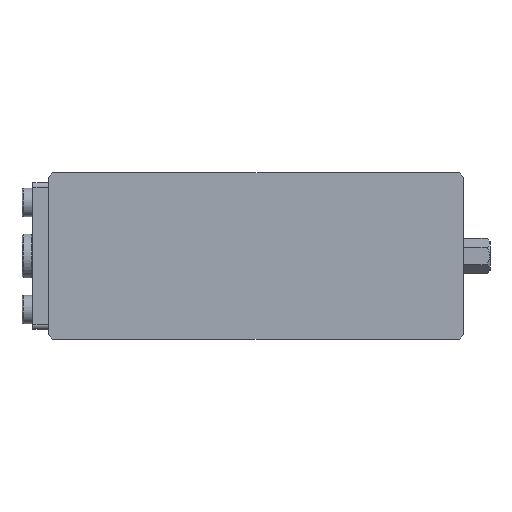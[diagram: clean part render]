
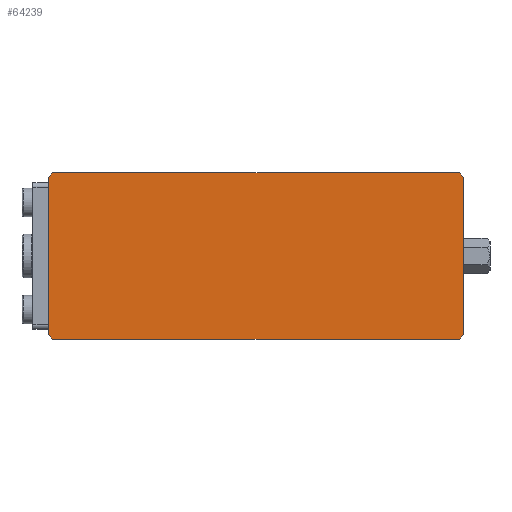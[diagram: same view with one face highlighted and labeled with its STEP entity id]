
A CAD part, front view. The second image highlights one B-rep face of the part: STEP entity #64239.
In plain terms, the highlighted planar face has unit normal (0, -1, 0).
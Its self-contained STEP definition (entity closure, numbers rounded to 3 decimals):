
#2065 = CARTESIAN_POINT ( 'NONE',  ( 93., -56., 38. ) ) ;
#3698 = CARTESIAN_POINT ( 'NONE',  ( 95., -56., -38. ) ) ;
#4888 = CARTESIAN_POINT ( 'NONE',  ( -95., -56., 38. ) ) ;
#6913 = CARTESIAN_POINT ( 'NONE',  ( 95., -56., 36. ) ) ;
#8191 = VECTOR ( 'NONE', #21712, 1000. ) ;
#9177 = EDGE_CURVE ( 'NONE', #20527, #34514, #45389, .T. ) ;
#9987 = ORIENTED_EDGE ( 'NONE', *, *, #65185, .F. ) ;
#10451 = CARTESIAN_POINT ( 'NONE',  ( -95., -56., 36. ) ) ;
#11672 = ORIENTED_EDGE ( 'NONE', *, *, #12166, .T. ) ;
#11843 = ORIENTED_EDGE ( 'NONE', *, *, #60862, .F. ) ;
#12166 = EDGE_CURVE ( 'NONE', #39688, #20527, #46117, .T. ) ;
#12188 = AXIS2_PLACEMENT_3D ( 'NONE', #36457, #63304, #57462 ) ;
#12240 = LINE ( 'NONE', #36947, #47925 ) ;
#13449 = DIRECTION ( 'NONE',  ( 0.707, 0., -0.707 ) ) ;
#15363 = VERTEX_POINT ( 'NONE', #2065 ) ;
#15551 = PLANE ( 'NONE',  #12188 ) ;
#16045 = DIRECTION ( 'NONE',  ( 0., 0., -1. ) ) ;
#17930 = CARTESIAN_POINT ( 'NONE',  ( 95., -56., 36. ) ) ;
#20527 = VERTEX_POINT ( 'NONE', #31088 ) ;
#21564 = ORIENTED_EDGE ( 'NONE', *, *, #28173, .T. ) ;
#21712 = DIRECTION ( 'NONE',  ( 0.707, 0., 0.707 ) ) ;
#24620 = DIRECTION ( 'NONE',  ( -1., 0., 0. ) ) ;
#26995 = VECTOR ( 'NONE', #13449, 1000. ) ;
#28173 = EDGE_CURVE ( 'NONE', #57932, #15363, #43717, .T. ) ;
#28869 = CARTESIAN_POINT ( 'NONE',  ( -93., -56., -38. ) ) ;
#30640 = VECTOR ( 'NONE', #24620, 1000. ) ;
#31088 = CARTESIAN_POINT ( 'NONE',  ( -95., -56., -36. ) ) ;
#31125 = LINE ( 'NONE', #67297, #44070 ) ;
#32110 = EDGE_CURVE ( 'NONE', #40918, #39688, #12240, .T. ) ;
#32645 = CARTESIAN_POINT ( 'NONE',  ( 95., -56., -36. ) ) ;
#34514 = VERTEX_POINT ( 'NONE', #65328 ) ;
#34522 = CARTESIAN_POINT ( 'NONE',  ( 95., -56., 38. ) ) ;
#34945 = ORIENTED_EDGE ( 'NONE', *, *, #9177, .T. ) ;
#35761 = VERTEX_POINT ( 'NONE', #51337 ) ;
#36056 = VERTEX_POINT ( 'NONE', #37442 ) ;
#36276 = ORIENTED_EDGE ( 'NONE', *, *, #53260, .T. ) ;
#36457 = CARTESIAN_POINT ( 'NONE',  ( 95., -56., 38. ) ) ;
#36947 = CARTESIAN_POINT ( 'NONE',  ( -93., -56., 38. ) ) ;
#37442 = CARTESIAN_POINT ( 'NONE',  ( 95., -56., -36. ) ) ;
#37632 = DIRECTION ( 'NONE',  ( -0.707, 0., -0.707 ) ) ;
#39688 = VERTEX_POINT ( 'NONE', #10451 ) ;
#40527 = CARTESIAN_POINT ( 'NONE',  ( -93., -56., 38. ) ) ;
#40918 = VERTEX_POINT ( 'NONE', #40527 ) ;
#41646 = FACE_OUTER_BOUND ( 'NONE', #49111, .T. ) ;
#41998 = EDGE_CURVE ( 'NONE', #35761, #36056, #47158, .T. ) ;
#43404 = VECTOR ( 'NONE', #55072, 1000. ) ;
#43717 = LINE ( 'NONE', #17930, #43404 ) ;
#44070 = VECTOR ( 'NONE', #16045, 1000. ) ;
#44545 = DIRECTION ( 'NONE',  ( -1., 0., 0. ) ) ;
#45389 = LINE ( 'NONE', #28869, #26995 ) ;
#45933 = LINE ( 'NONE', #3698, #30640 ) ;
#46117 = LINE ( 'NONE', #4888, #55772 ) ;
#46195 = ORIENTED_EDGE ( 'NONE', *, *, #41998, .T. ) ;
#47158 = LINE ( 'NONE', #32645, #8191 ) ;
#47925 = VECTOR ( 'NONE', #37632, 1000. ) ;
#48088 = VECTOR ( 'NONE', #44545, 1000. ) ;
#49111 = EDGE_LOOP ( 'NONE', ( #9987, #21564, #36276, #66532, #11672, #34945, #11843, #46195 ) ) ;
#51337 = CARTESIAN_POINT ( 'NONE',  ( 93., -56., -38. ) ) ;
#53260 = EDGE_CURVE ( 'NONE', #15363, #40918, #55211, .T. ) ;
#55072 = DIRECTION ( 'NONE',  ( -0.707, 0., 0.707 ) ) ;
#55211 = LINE ( 'NONE', #34522, #48088 ) ;
#55772 = VECTOR ( 'NONE', #56773, 1000. ) ;
#56773 = DIRECTION ( 'NONE',  ( 0., 0., -1. ) ) ;
#57462 = DIRECTION ( 'NONE',  ( 0., 0., 1. ) ) ;
#57932 = VERTEX_POINT ( 'NONE', #6913 ) ;
#60862 = EDGE_CURVE ( 'NONE', #35761, #34514, #45933, .T. ) ;
#63304 = DIRECTION ( 'NONE',  ( 0., 1., 0. ) ) ;
#64239 = ADVANCED_FACE ( 'NONE', ( #41646 ), #15551, .F. ) ;
#65185 = EDGE_CURVE ( 'NONE', #57932, #36056, #31125, .T. ) ;
#65328 = CARTESIAN_POINT ( 'NONE',  ( -93., -56., -38. ) ) ;
#66532 = ORIENTED_EDGE ( 'NONE', *, *, #32110, .T. ) ;
#67297 = CARTESIAN_POINT ( 'NONE',  ( 95., -56., 38. ) ) ;
